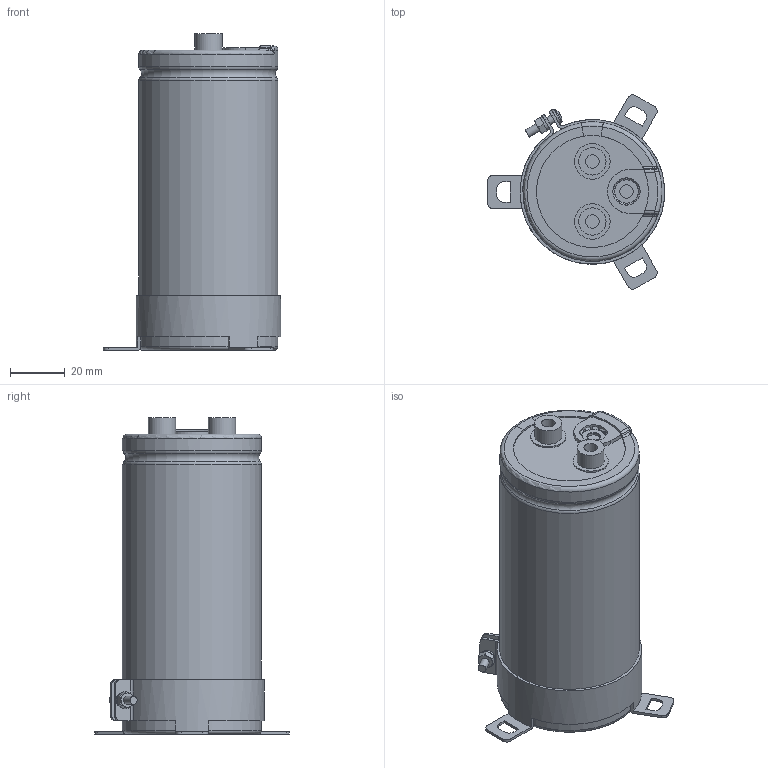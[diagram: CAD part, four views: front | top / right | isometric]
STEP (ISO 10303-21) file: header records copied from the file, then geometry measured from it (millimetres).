
FILE_DESCRIPTION(/* description */ (''),/* implementation_level */ '2;1');
FILE_NAME(/* name */ '51x110_Screw.stp',/* time_stamp */ '2017-09-15T13:51:30+09:00',/* author */ (''),/* organization */ (''),/* preprocessor_version */ 'ST-DEVELOPER v16',/* originating_system */ 'SIEMENS PLM Software NX 11.0',/* authorisation */ '');
FILE_SCHEMA (('AUTOMOTIVE_DESIGN { 1 0 10303 214 3 1 1 1 }'));
Length unit declared in the file: millimetre
Products named in the file (1): 51x110_Screw
Bounding box: 65 x 71.22 x 116 mm (x, y, z)
Volume: 226695.8 mm3; surface area: 67089.3 mm2
Topology: 9 solids, 9 shells, 298 faces, 744 edges, 471 vertices
Faces by surface type: plane 118, cylinder 78, torus 54, cone 31, bspline 12, sphere 5
Full cylindrical faces by diameter (mm): 3 x5, 5 x6, 5.5 x2, 10 x4, 13 x2, 49.8 x2
Entity records: 10562 total; most frequent: CARTESIAN_POINT 3129, DIRECTION 1450, ORIENTED_EDGE 1410, EDGE_CURVE 705, AXIS2_PLACEMENT_3D 606, VERTEX_POINT 464, EDGE_LOOP 353, CIRCLE 319
